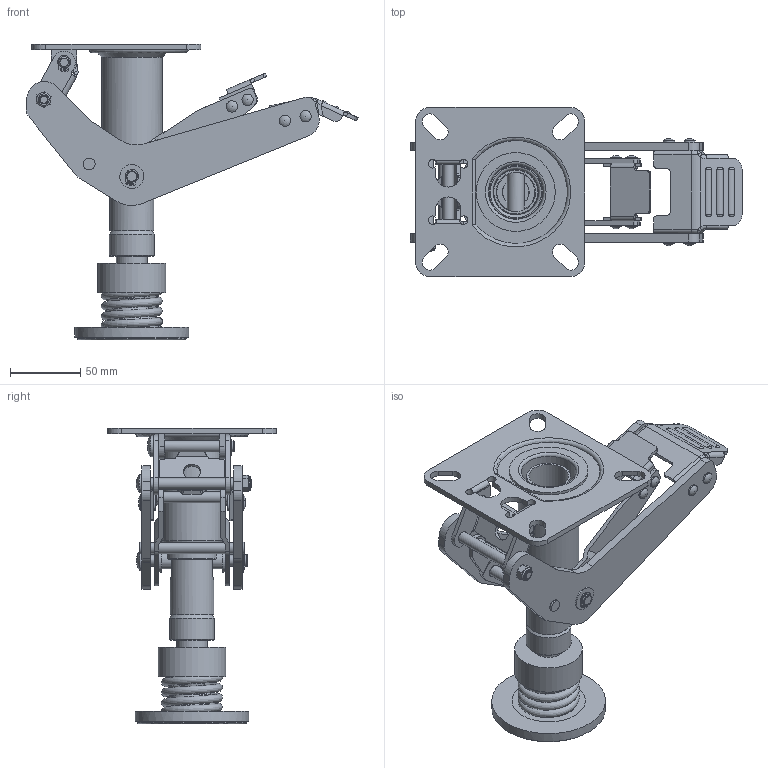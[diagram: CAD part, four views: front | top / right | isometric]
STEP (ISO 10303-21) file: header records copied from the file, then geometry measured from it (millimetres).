
FILE_DESCRIPTION(/* description */ (''),/* implementation_level */ '2;1');
FILE_NAME(/* name */ '99B22_8.stp',/* time_stamp */ '2022-10-07T12:45:49+08:00',/* author */ (''),/* organization */ (''),/* preprocessor_version */ 'ST-DEVELOPER v14',/* originating_system */ 'SIEMENS PLM Software NX 8.0',/* authorisation */ '');
FILE_SCHEMA (('AUTOMOTIVE_DESIGN { 1 0 10303 214 3 1 1 1 }'));
Length unit declared in the file: millimetre
Products named in the file (1): 99B22_8
Bounding box: 235.61 x 120 x 210 mm (x, y, z)
Volume: 369609.2 mm3; surface area: 201641 mm2
Topology: 1 solids, 14 shells, 685 faces, 1697 edges, 1104 vertices
Faces by surface type: plane 306, cylinder 265, bspline 39, cone 31, torus 30, sphere 12, extrusion 1, revolution 1
Full cylindrical faces by diameter (mm): 1.194 x4, 5 x10, 5.2 x6, 5.3 x4, 6 x2, 6.2 x5, 7.3 x1, 7.4 x1, 8 x30, 8.2 x4, 8.3 x1, 8.4 x2, 8.5 x3, 10 x1, 12 x2, 13 x1, 14.7 x2, 15 x1, 17 x3, 18 x2, 18.1 x1, 18.6 x1, 22 x1, 26 x1, 28 x1, 31.2 x1, 32 x1, 32.5 x1, 36.6 x1, 37 x1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
Entity records: 25186 total; most frequent: CARTESIAN_POINT 9965, DIRECTION 3133, ORIENTED_EDGE 2898, EDGE_CURVE 1449, AXIS2_PLACEMENT_3D 1245, VERTEX_POINT 1021, EDGE_LOOP 995, ADVANCED_FACE 683
